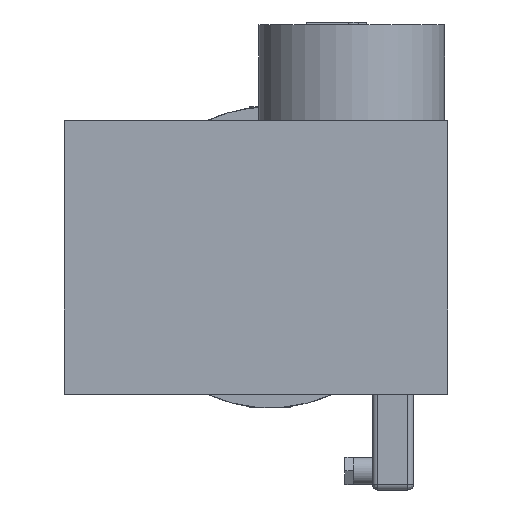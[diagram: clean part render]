
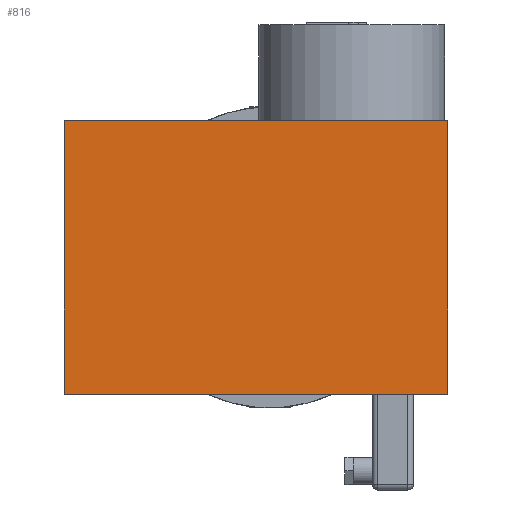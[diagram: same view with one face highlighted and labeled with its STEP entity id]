
A CAD part, front view. The second image highlights one B-rep face of the part: STEP entity #816.
In plain terms, the highlighted planar face has unit normal (0, -1, 0).
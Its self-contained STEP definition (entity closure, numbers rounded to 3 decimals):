
#51 = VECTOR ( 'NONE', #815, 1000. ) ;
#57 = ORIENTED_EDGE ( 'NONE', *, *, #111, .T. ) ;
#96 = CARTESIAN_POINT ( 'NONE',  ( 70., 0., -50. ) ) ;
#111 = EDGE_CURVE ( 'NONE', #1837, #1880, #1873, .T. ) ;
#136 = VECTOR ( 'NONE', #546, 1000. ) ;
#151 = VECTOR ( 'NONE', #1237, 1000. ) ;
#153 = CARTESIAN_POINT ( 'NONE',  ( 70., 0., -50. ) ) ;
#265 = VERTEX_POINT ( 'NONE', #1223 ) ;
#343 = CARTESIAN_POINT ( 'NONE',  ( 70., 0., 50. ) ) ;
#376 = EDGE_CURVE ( 'NONE', #265, #1837, #534, .T. ) ;
#378 = CARTESIAN_POINT ( 'NONE',  ( -70., 0., -50. ) ) ;
#422 = EDGE_CURVE ( 'NONE', #795, #265, #1162, .T. ) ;
#534 = LINE ( 'NONE', #378, #1690 ) ;
#545 = EDGE_LOOP ( 'NONE', ( #1164, #1544, #57, #585 ) ) ;
#546 = DIRECTION ( 'NONE',  ( 0., 0., 1. ) ) ;
#552 = LINE ( 'NONE', #940, #151 ) ;
#568 = AXIS2_PLACEMENT_3D ( 'NONE', #153, #605, #1619 ) ;
#585 = ORIENTED_EDGE ( 'NONE', *, *, #1029, .T. ) ;
#605 = DIRECTION ( 'NONE',  ( 0., -1., 0. ) ) ;
#795 = VERTEX_POINT ( 'NONE', #1011 ) ;
#815 = DIRECTION ( 'NONE',  ( 0., 0., -1. ) ) ;
#816 = ADVANCED_FACE ( 'NONE', ( #1296 ), #1480, .T. ) ;
#940 = CARTESIAN_POINT ( 'NONE',  ( -70., 0., 50. ) ) ;
#1011 = CARTESIAN_POINT ( 'NONE',  ( -70., 0., 50. ) ) ;
#1029 = EDGE_CURVE ( 'NONE', #1880, #795, #552, .T. ) ;
#1126 = CARTESIAN_POINT ( 'NONE',  ( 70., 0., 50. ) ) ;
#1162 = LINE ( 'NONE', #1248, #51 ) ;
#1164 = ORIENTED_EDGE ( 'NONE', *, *, #422, .T. ) ;
#1223 = CARTESIAN_POINT ( 'NONE',  ( -70., 0., -50. ) ) ;
#1237 = DIRECTION ( 'NONE',  ( -1., 0., 0. ) ) ;
#1248 = CARTESIAN_POINT ( 'NONE',  ( -70., 0., 50. ) ) ;
#1296 = FACE_OUTER_BOUND ( 'NONE', #545, .T. ) ;
#1385 = DIRECTION ( 'NONE',  ( 1., 0., 0. ) ) ;
#1480 = PLANE ( 'NONE',  #568 ) ;
#1544 = ORIENTED_EDGE ( 'NONE', *, *, #376, .T. ) ;
#1619 = DIRECTION ( 'NONE',  ( 0., 0., -1. ) ) ;
#1690 = VECTOR ( 'NONE', #1385, 1000. ) ;
#1837 = VERTEX_POINT ( 'NONE', #96 ) ;
#1873 = LINE ( 'NONE', #343, #136 ) ;
#1880 = VERTEX_POINT ( 'NONE', #1126 ) ;
